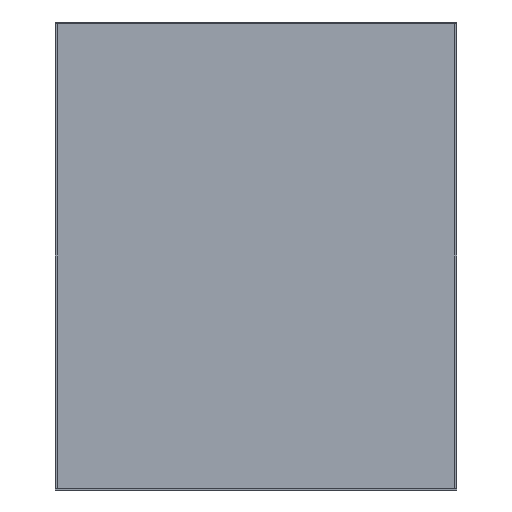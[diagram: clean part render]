
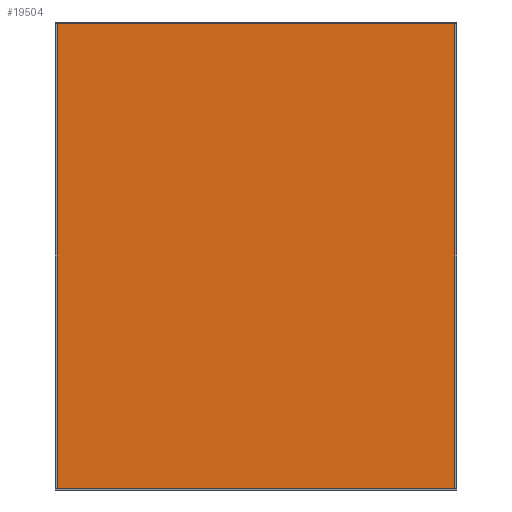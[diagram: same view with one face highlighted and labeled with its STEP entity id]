
A CAD part, front view. The second image highlights one B-rep face of the part: STEP entity #19504.
In plain terms, the highlighted planar face has unit normal (0, -1, 0).
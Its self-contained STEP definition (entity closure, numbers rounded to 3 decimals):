
#19288 = EDGE_CURVE('',#19289,#19291,#19293,.T.);
#19289 = VERTEX_POINT('',#19290);
#19290 = CARTESIAN_POINT('',(-0.155,-0.096,0.002)
  );
#19291 = VERTEX_POINT('',#19292);
#19292 = CARTESIAN_POINT('',(-0.155,-0.096,
    0.364));
#19293 = SURFACE_CURVE('',#19294,(#19298,#19310),.PCURVE_S1.);
#19294 = LINE('',#19295,#19296);
#19295 = CARTESIAN_POINT('',(-0.155,-0.096,0.002)
  );
#19296 = VECTOR('',#19297,1.);
#19297 = DIRECTION('',(0.,0.,1.));
#19298 = PCURVE('',#19299,#19304);
#19299 = PLANE('',#19300);
#19300 = AXIS2_PLACEMENT_3D('',#19301,#19302,#19303);
#19301 = CARTESIAN_POINT('',(-0.155,-0.096,0.002)
  );
#19302 = DIRECTION('',(1.,0.,0.));
#19303 = DIRECTION('',(0.,0.,1.));
#19304 = DEFINITIONAL_REPRESENTATION('',(#19305),#19309);
#19305 = LINE('',#19306,#19307);
#19306 = CARTESIAN_POINT('',(0.,0.));
#19307 = VECTOR('',#19308,1.);
#19308 = DIRECTION('',(1.,0.));
#19309 = ( GEOMETRIC_REPRESENTATION_CONTEXT(2) 
PARAMETRIC_REPRESENTATION_CONTEXT() REPRESENTATION_CONTEXT('2D SPACE',''
  ) );
#19310 = PCURVE('',#19311,#19316);
#19311 = PLANE('',#19312);
#19312 = AXIS2_PLACEMENT_3D('',#19313,#19314,#19315);
#19313 = CARTESIAN_POINT('',(-0.155,-0.096,0.002)
  );
#19314 = DIRECTION('',(0.,1.,0.));
#19315 = DIRECTION('',(0.,0.,1.));
#19316 = DEFINITIONAL_REPRESENTATION('',(#19317),#19321);
#19317 = LINE('',#19318,#19319);
#19318 = CARTESIAN_POINT('',(0.,0.));
#19319 = VECTOR('',#19320,1.);
#19320 = DIRECTION('',(1.,0.));
#19321 = ( GEOMETRIC_REPRESENTATION_CONTEXT(2) 
PARAMETRIC_REPRESENTATION_CONTEXT() REPRESENTATION_CONTEXT('2D SPACE',''
  ) );
#19339 = PLANE('',#19340);
#19340 = AXIS2_PLACEMENT_3D('',#19341,#19342,#19343);
#19341 = CARTESIAN_POINT('',(-0.155,-0.096,0.002)
  );
#19342 = DIRECTION('',(0.,0.,1.));
#19343 = DIRECTION('',(1.,0.,0.));
#19393 = PLANE('',#19394);
#19394 = AXIS2_PLACEMENT_3D('',#19395,#19396,#19397);
#19395 = CARTESIAN_POINT('',(-0.155,-0.096,
    0.364));
#19396 = DIRECTION('',(0.,0.,1.));
#19397 = DIRECTION('',(1.,0.,0.));
#19408 = EDGE_CURVE('',#19409,#19411,#19413,.T.);
#19409 = VERTEX_POINT('',#19410);
#19410 = CARTESIAN_POINT('',(0.155,-0.096,0.002)
  );
#19411 = VERTEX_POINT('',#19412);
#19412 = CARTESIAN_POINT('',(0.155,-0.096,
    0.364));
#19413 = SURFACE_CURVE('',#19414,(#19418,#19430),.PCURVE_S1.);
#19414 = LINE('',#19415,#19416);
#19415 = CARTESIAN_POINT('',(0.155,-0.096,0.002)
  );
#19416 = VECTOR('',#19417,1.);
#19417 = DIRECTION('',(0.,0.,1.));
#19418 = PCURVE('',#19419,#19424);
#19419 = PLANE('',#19420);
#19420 = AXIS2_PLACEMENT_3D('',#19421,#19422,#19423);
#19421 = CARTESIAN_POINT('',(0.155,-0.096,0.002)
  );
#19422 = DIRECTION('',(1.,0.,0.));
#19423 = DIRECTION('',(0.,0.,1.));
#19424 = DEFINITIONAL_REPRESENTATION('',(#19425),#19429);
#19425 = LINE('',#19426,#19427);
#19426 = CARTESIAN_POINT('',(0.,0.));
#19427 = VECTOR('',#19428,1.);
#19428 = DIRECTION('',(1.,0.));
#19429 = ( GEOMETRIC_REPRESENTATION_CONTEXT(2) 
PARAMETRIC_REPRESENTATION_CONTEXT() REPRESENTATION_CONTEXT('2D SPACE',''
  ) );
#19430 = PCURVE('',#19311,#19431);
#19431 = DEFINITIONAL_REPRESENTATION('',(#19432),#19436);
#19432 = LINE('',#19433,#19434);
#19433 = CARTESIAN_POINT('',(0.,0.31));
#19434 = VECTOR('',#19435,1.);
#19435 = DIRECTION('',(1.,0.));
#19436 = ( GEOMETRIC_REPRESENTATION_CONTEXT(2) 
PARAMETRIC_REPRESENTATION_CONTEXT() REPRESENTATION_CONTEXT('2D SPACE',''
  ) );
#19504 = ADVANCED_FACE('',(#19505),#19311,.F.);
#19505 = FACE_BOUND('',#19506,.F.);
#19506 = EDGE_LOOP('',(#19507,#19528,#19529,#19550));
#19507 = ORIENTED_EDGE('',*,*,#19508,.F.);
#19508 = EDGE_CURVE('',#19289,#19409,#19509,.T.);
#19509 = SURFACE_CURVE('',#19510,(#19514,#19521),.PCURVE_S1.);
#19510 = LINE('',#19511,#19512);
#19511 = CARTESIAN_POINT('',(-0.155,-0.096,0.002)
  );
#19512 = VECTOR('',#19513,1.);
#19513 = DIRECTION('',(1.,0.,0.));
#19514 = PCURVE('',#19311,#19515);
#19515 = DEFINITIONAL_REPRESENTATION('',(#19516),#19520);
#19516 = LINE('',#19517,#19518);
#19517 = CARTESIAN_POINT('',(0.,0.));
#19518 = VECTOR('',#19519,1.);
#19519 = DIRECTION('',(0.,1.));
#19520 = ( GEOMETRIC_REPRESENTATION_CONTEXT(2) 
PARAMETRIC_REPRESENTATION_CONTEXT() REPRESENTATION_CONTEXT('2D SPACE',''
  ) );
#19521 = PCURVE('',#19339,#19522);
#19522 = DEFINITIONAL_REPRESENTATION('',(#19523),#19527);
#19523 = LINE('',#19524,#19525);
#19524 = CARTESIAN_POINT('',(0.,0.));
#19525 = VECTOR('',#19526,1.);
#19526 = DIRECTION('',(1.,0.));
#19527 = ( GEOMETRIC_REPRESENTATION_CONTEXT(2) 
PARAMETRIC_REPRESENTATION_CONTEXT() REPRESENTATION_CONTEXT('2D SPACE',''
  ) );
#19528 = ORIENTED_EDGE('',*,*,#19288,.T.);
#19529 = ORIENTED_EDGE('',*,*,#19530,.T.);
#19530 = EDGE_CURVE('',#19291,#19411,#19531,.T.);
#19531 = SURFACE_CURVE('',#19532,(#19536,#19543),.PCURVE_S1.);
#19532 = LINE('',#19533,#19534);
#19533 = CARTESIAN_POINT('',(-0.155,-0.096,
    0.364));
#19534 = VECTOR('',#19535,1.);
#19535 = DIRECTION('',(1.,0.,0.));
#19536 = PCURVE('',#19311,#19537);
#19537 = DEFINITIONAL_REPRESENTATION('',(#19538),#19542);
#19538 = LINE('',#19539,#19540);
#19539 = CARTESIAN_POINT('',(0.362,0.));
#19540 = VECTOR('',#19541,1.);
#19541 = DIRECTION('',(0.,1.));
#19542 = ( GEOMETRIC_REPRESENTATION_CONTEXT(2) 
PARAMETRIC_REPRESENTATION_CONTEXT() REPRESENTATION_CONTEXT('2D SPACE',''
  ) );
#19543 = PCURVE('',#19393,#19544);
#19544 = DEFINITIONAL_REPRESENTATION('',(#19545),#19549);
#19545 = LINE('',#19546,#19547);
#19546 = CARTESIAN_POINT('',(0.,0.));
#19547 = VECTOR('',#19548,1.);
#19548 = DIRECTION('',(1.,0.));
#19549 = ( GEOMETRIC_REPRESENTATION_CONTEXT(2) 
PARAMETRIC_REPRESENTATION_CONTEXT() REPRESENTATION_CONTEXT('2D SPACE',''
  ) );
#19550 = ORIENTED_EDGE('',*,*,#19408,.F.);
